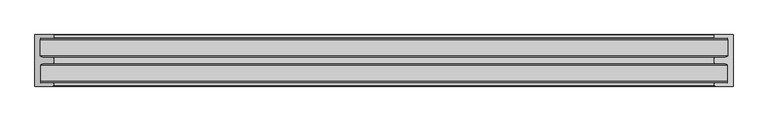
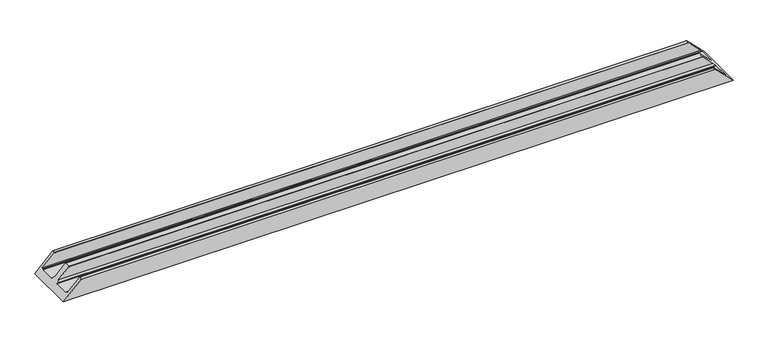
"""IFC4 building model written with IfcOpenShell, lengths in millimetres: proxy geometry, Weiku - Montante - Caixilho duplo 02.3.02.409 : Weiku - Montante - Caixilho duplo 02.3.02.409."""

from ifc_helpers import new_model, si_unit, frame, origin, place, context, project, spatial, ellipse_curve, source, transform, mapped, element, save
from ifc_brep_helpers import plane_surface, cylinder_surface, advanced_brep


def generic_models_3a22fb21(model_context):
    return source(origin(), model_context, "Body", "AdvancedBrep", [
        advanced_brep(
        [(-1038.2, -9.8, 18.2), (1038.2, -9.8, 18.2), (1000.5, -9.8, 55.9), (-1000.5, -9.8, 55.9), (-1040.7000079, -63.85, 15.6999921), (1040.7000079, -63.85, 15.6999921), (1040.7000079, -15.05, 15.6999921), (-1040.7000079, -15.05, 15.6999921), (-1000.5000055, -69.1, 55.8999945), (1000.5000055, -69.1, 55.8999945), (1032.5700642, -69.1, 23.8299358), (-1032.5700642, -69.1, 23.8299358), (-1000.0000055, -86.65, 56.3999945), (1000.0000055, -86.65, 56.3999945), (1000.0000055, -69.6, 56.3999945), (-1000.0000055, -69.6, 56.3999945), (-1032.6236827, -87.15, 23.7763173), (1032.6236827, -87.15, 23.7763173), (1000.5000055, -87.15, 55.8999945), (-1000.5000055, -87.15, 55.8999945), (-1056.4, -156.2000166, 0.0), (-1056.4, 0.0, 0.0), (1056.4, 0.0, 0.0), (1056.4, -156.2000166, 0.0), (-1000.5, 0.0, 55.9), (1000.5, 0.0, 55.9), (-1000.0, -9.3, 56.4), (1000.0, -9.3, 56.4), (1000.0, -0.5, 56.4), (-1000.0, -0.5, 56.4), (-1000.5, -156.2000166, 55.9), (-1000.0, -155.7000166, 56.4), (-1000.0, -146.9000166, 56.4), (-1000.5, -146.4000166, 55.9), (-1038.2, -146.4000166, 18.2), (-1038.2, -141.1500166, 18.2), (-1040.7000079, -141.1500166, 15.6999921), (-1040.7000079, -92.3500166, 15.6999921), (-1038.2000178, -92.3500166, 18.1999822), (-1038.2, -63.85, 18.2), (-1038.2, -15.05, 18.2), (1038.2, -15.05, 18.2), (1038.2, -63.85, 18.2), (1038.2000178, -92.3500166, 18.1999822), (1040.7000079, -92.3500166, 15.6999921), (1040.7000079, -141.1500166, 15.6999921), (1038.2, -141.1500166, 18.2), (1038.2, -146.4000166, 18.2), (1000.5, -146.4000166, 55.9), (1000.0, -146.9000166, 56.4), (1000.0, -155.7000166, 56.4), (1000.5, -156.2000166, 55.9)],
        [
            (0, 1),
            (1, 2),
            (2, 3),
            (3, 0),
            (4, 5),
            (5, 6),
            (6, 7),
            (7, 4),
            (8, 9),
            (9, 10),
            (10, 11),
            (11, 8),
            (12, 13),
            (13, 14),
            (14, 15),
            (15, 12),
            (16, 17),
            (17, 18),
            (18, 19),
            (19, 16),
            (20, 21),
            (21, 22),
            (22, 23),
            (23, 20),
            (21, 24),
            (24, 25),
            (25, 22),
            (26, 27),
            (27, 28),
            (28, 29),
            (29, 26),
            (3, 26, ellipse_curve(frame((-1000.5, -9.3, 55.9), z_axis=(-0.7071067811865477, 0.0, 0.7071067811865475), x_axis=(-0.7071067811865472, 0.0, -0.7071067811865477)), 0.7071068, 0.5)),
            (29, 24, ellipse_curve(frame((-1000.5, -0.5, 55.9), z_axis=(-0.7071067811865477, 0.0, 0.7071067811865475), x_axis=(-0.7071067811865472, 0.0, -0.7071067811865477)), 0.7071068, 0.5)),
            (20, 30),
            (30, 31, ellipse_curve(frame((-1000.5, -155.7000166, 55.9), z_axis=(-0.7071067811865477, 0.0, 0.7071067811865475), x_axis=(-0.7071067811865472, 0.0, -0.7071067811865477)), 0.7071068, 0.5)),
            (31, 32),
            (32, 33, ellipse_curve(frame((-1000.5, -146.9000166, 55.9), z_axis=(-0.7071067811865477, 0.0, 0.7071067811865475), x_axis=(-0.7071067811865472, 0.0, -0.7071067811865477)), 0.7071068, 0.5)),
            (33, 34),
            (34, 35),
            (35, 36),
            (36, 37),
            (37, 38),
            (38, 16),
            (19, 12, ellipse_curve(frame((-1000.5000055, -86.65, 55.8999945), z_axis=(-0.7071067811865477, 0.0, 0.7071067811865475), x_axis=(-0.7071067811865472, 0.0, -0.7071067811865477)), 0.7071068, 0.5)),
            (15, 8, ellipse_curve(frame((-1000.5000055, -69.6, 55.8999945), z_axis=(-0.7071067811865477, 0.0, 0.7071067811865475), x_axis=(-0.7071067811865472, 0.0, -0.7071067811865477)), 0.7071068, 0.5)),
            (11, 39),
            (39, 4),
            (7, 40),
            (40, 0),
            (1, 41),
            (41, 6),
            (5, 42),
            (42, 10),
            (9, 14, ellipse_curve(frame((1000.5000055, -69.6, 55.8999945), z_axis=(0.7071067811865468, 0.0, 0.7071067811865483), x_axis=(-0.7071067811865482, 0.0, 0.7071067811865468)), 0.7071068, 0.5)),
            (13, 18, ellipse_curve(frame((1000.5000055, -86.65, 55.8999945), z_axis=(0.7071067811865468, 0.0, 0.7071067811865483), x_axis=(-0.7071067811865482, 0.0, 0.7071067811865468)), 0.7071068, 0.5)),
            (17, 43),
            (43, 44),
            (44, 45),
            (45, 46),
            (46, 47),
            (47, 48),
            (48, 49, ellipse_curve(frame((1000.5, -146.9000166, 55.9), z_axis=(0.7071067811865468, 0.0, 0.7071067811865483), x_axis=(-0.7071067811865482, 0.0, 0.7071067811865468)), 0.7071068, 0.5)),
            (49, 50),
            (50, 51, ellipse_curve(frame((1000.5, -155.7000166, 55.9), z_axis=(0.7071067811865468, 0.0, 0.7071067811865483), x_axis=(-0.7071067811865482, 0.0, 0.7071067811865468)), 0.7071068, 0.5)),
            (51, 23),
            (25, 28, ellipse_curve(frame((1000.5, -0.5, 55.9), z_axis=(0.7071067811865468, 0.0, 0.7071067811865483), x_axis=(-0.7071067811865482, 0.0, 0.7071067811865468)), 0.7071068, 0.5)),
            (27, 2, ellipse_curve(frame((1000.5, -9.3, 55.9), z_axis=(0.7071067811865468, 0.0, 0.7071067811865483), x_axis=(-0.7071067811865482, 0.0, 0.7071067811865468)), 0.7071068, 0.5)),
            (40, 41),
            (39, 42),
            (38, 43),
            (37, 44),
            (36, 45),
            (35, 46),
            (34, 47),
            (33, 48),
            (31, 50),
            (49, 32),
            (30, 51),
        ],
        [
            plane_surface(frame((-1056.4, -9.8, 55.9), z_axis=(0.0, -1.0, 0.0), x_axis=(1.0, 0.0, 0.0))),
            plane_surface(frame((-1056.4, -15.05, 15.6999921), z_axis=(0.0, 0.0, 1.0), x_axis=(1.0, 0.0, 0.0))),
            plane_surface(frame((-1056.4, -69.1, 23.8299358), z_axis=(0.0, 1.0, 0.0), x_axis=(1.0, 0.0, 0.0))),
            plane_surface(frame((-1056.4, -69.6, 56.3999945), z_axis=(0.0, 0.0, 1.0), x_axis=(1.0, 0.0, 0.0))),
            plane_surface(frame((-1056.4, -87.15, 55.8999945), z_axis=(0.0, -1.0, 0.0), x_axis=(1.0, 0.0, 0.0))),
            plane_surface(frame((-1056.4, -156.2000166, 0.0), z_axis=(0.0, 0.0, -1.0), x_axis=(1.0, 0.0, 0.0))),
            plane_surface(frame((-1056.4, 0.0, 0.0), z_axis=(0.0, 1.0, 0.0), x_axis=(1.0, 0.0, 0.0))),
            plane_surface(frame((-1056.4, -0.5, 56.4), z_axis=(0.0, 0.0, 1.0), x_axis=(1.0, 0.0, 0.0))),
            plane_surface(frame((-1056.4, 0.0, 0.0), z_axis=(-0.7071067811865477, 0.0, 0.7071067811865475), x_axis=(0.0, -1.0, 0.0))),
            plane_surface(frame((996.4, 0.0, 60.0), z_axis=(0.7071067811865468, 0.0, 0.7071067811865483), x_axis=(0.0, -1.0, 0.0))),
            plane_surface(frame((-1056.4, -9.8, 18.2), z_axis=(0.0, 0.0, 1.0), x_axis=(1.0, 0.0, 0.0))),
            plane_surface(frame((-1056.4, -15.05, 18.2), z_axis=(0.0, -1.0, 0.0), x_axis=(1.0, 0.0, 0.0))),
            plane_surface(frame((-1056.4, -63.85, 15.6999921), z_axis=(0.0, 1.0, 0.0), x_axis=(1.0, 0.0, 0.0))),
            plane_surface(frame((-1056.4, -63.85, 18.2), z_axis=(0.0, 0.7313537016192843, 0.6819983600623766), x_axis=(1.0, 0.0, 0.0))),
            cylinder_surface(frame((-1056.4, -86.65, 55.8999945), z_axis=(-1.0, 0.0, 0.0), x_axis=(0.0, -1.0, 0.0)), 0.5),
            cylinder_surface(frame((-1056.4, -0.5, 55.9), z_axis=(-1.0, 0.0, 0.0), x_axis=(0.0, -1.0, 0.0)), 0.5),
            plane_surface(frame((-1056.4, -87.15, 23.7763173), z_axis=(0.0, -0.7313537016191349, 0.6819983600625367), x_axis=(1.0, 0.0, 0.0))),
            plane_surface(frame((-1056.4, -92.3500166, 18.1999822), z_axis=(0.0, -1.0, 0.0), x_axis=(1.0, 0.0, 0.0))),
            plane_surface(frame((-1056.4, -92.3500166, 15.6999921), z_axis=(0.0, 0.0, 1.0), x_axis=(1.0, 0.0, 0.0))),
            plane_surface(frame((-1056.4, -141.1500166, 15.6999921), z_axis=(0.0, 1.0, 0.0), x_axis=(1.0, 0.0, 0.0))),
            plane_surface(frame((-1056.4, -141.1500166, 18.2), z_axis=(0.0, 0.0, 1.0), x_axis=(1.0, 0.0, 0.0))),
            plane_surface(frame((-1056.4, -146.4000166, 18.2), z_axis=(0.0, 1.0, 0.0), x_axis=(1.0, 0.0, 0.0))),
            plane_surface(frame((-1056.4, -146.9000166, 56.4), z_axis=(0.0, 0.0, 1.0), x_axis=(1.0, 0.0, 0.0))),
            cylinder_surface(frame((-1056.4, -155.7000166, 55.9), z_axis=(-1.0, 0.0, 0.0), x_axis=(0.0, 1.0, 0.0)), 0.5),
            plane_surface(frame((-1056.4, -156.2000166, 55.9), z_axis=(0.0, -1.0, 0.0), x_axis=(1.0, 0.0, 0.0))),
            cylinder_surface(frame((-1056.4, -9.3, 55.9), z_axis=(-1.0, 0.0, 0.0), x_axis=(0.0, -1.0, 0.0)), 0.5),
            cylinder_surface(frame((-1056.4, -69.6, 55.8999945), z_axis=(-1.0, 0.0, 0.0), x_axis=(0.0, -1.0, 0.0)), 0.5),
            cylinder_surface(frame((-1056.4, -146.9000166, 55.9), z_axis=(-1.0, 0.0, 0.0), x_axis=(0.0, -1.0, 0.0)), 0.5),
        ],
        [
            (0, [[1, 2, 3, 4]]),
            (1, [[5, 6, 7, 8]]),
            (2, [[9, 10, 11, 12]]),
            (3, [[13, 14, 15, 16]]),
            (4, [[17, 18, 19, 20]]),
            (5, [[21, 22, 23, 24]]),
            (6, [[25, 26, 27, -22]]),
            (7, [[28, 29, 30, 31]]),
            (8, [[32, -31, 33, -25, -21, 34, 35, 36, 37, 38, 39, 40, 41, 42, 43, -20, 44, -16, 45, -12, 46, 47, -8, 48, 49, -4]]),
            (9, [[50, 51, -6, 52, 53, -10, 54, -14, 55, -18, 56, 57, 58, 59, 60, 61, 62, 63, 64, 65, -23, -27, 66, -29, 67, -2]]),
            (10, [[68, -50, -1, -49]]),
            (11, [[-7, -51, -68, -48]]),
            (12, [[69, -52, -5, -47]]),
            (13, [[-11, -53, -69, -46]]),
            (14, [[-19, -55, -13, -44]]),
            (15, [[-30, -66, -26, -33]]),
            (16, [[70, -56, -17, -43]]),
            (17, [[71, -57, -70, -42]]),
            (18, [[72, -58, -71, -41]]),
            (19, [[73, -59, -72, -40]]),
            (20, [[74, -60, -73, -39]]),
            (21, [[75, -61, -74, -38]]),
            (22, [[76, -63, 77, -36]]),
            (23, [[78, -64, -76, -35]]),
            (24, [[-65, -78, -34, -24]]),
            (25, [[-3, -67, -28, -32]]),
            (26, [[-15, -54, -9, -45]]),
            (27, [[-77, -62, -75, -37]]),
        ],
    ),
    ])


if __name__ == "__main__":
    model = new_model("IFC4")
    model_context = context("Model", 3, world=origin())
    ifc_project = project(units=[si_unit("LENGTHUNIT", "METRE", prefix="MILLI")], contexts=[model_context])
    site = spatial("IfcSite", under=ifc_project)
    building = spatial("IfcBuilding", under=site)
    placement = place(None, origin())
    generic_models_shape = generic_models_3a22fb21(model_context)
    element("IfcBuildingElementProxy", 1, Name="Weiku - Montante - Caixilho duplo 02.3.02.409 : Weiku - Montante - Caixilho duplo 02.3.02.409", ObjectType="Weiku - Montante - Caixilho duplo 02.3.02.409 : Weiku - Montante - Caixilho duplo 02.3.02.409", at=placement, inside=building, context=model_context, shape_type="MappedRepresentation", body=[
        mapped(generic_models_shape, transform((0.0, 0.0, 0.0), x_axis=(1.0, 0.0, 0.0), y_axis=(0.0, 1.0, 0.0), z_axis=(0.0, 0.0, 1.0))),
    ])
    save(model, "model.ifc")
